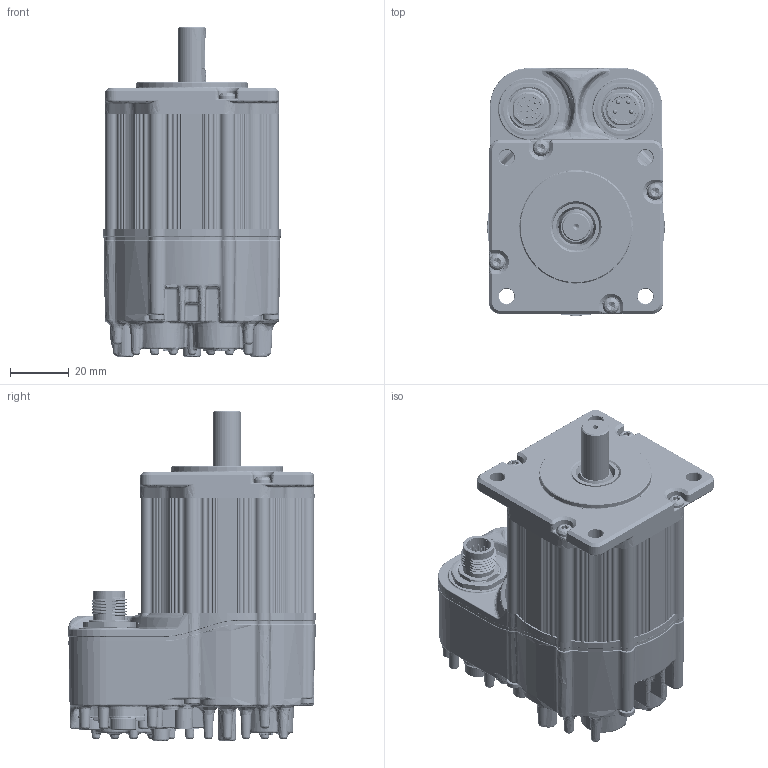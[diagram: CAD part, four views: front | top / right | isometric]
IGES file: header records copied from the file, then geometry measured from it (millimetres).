
Start section: SolidWorks IGES file using analytic representation for surfaces
Global section: file name: C:\TeknicPDM\EtherPath CPM-S\EtherPath CPM-S Customer Files\EC Customer Models\EC 231x.igs; native system: SolidWorks 2020; preprocessor: SolidWorks 2020; author: mike_berezny; date: 241009.130615; units: inch
Bounding box: 60.26 x 84.12 x 111.81 mm (x, y, z)
Surface area: 111869.3 mm2 (no closed solid volume)
Topology: 0 solids, 0 shells, 12084 faces, 108546 edges, 107750 vertices
Faces by surface type: bspline 6279, revolution 5805
